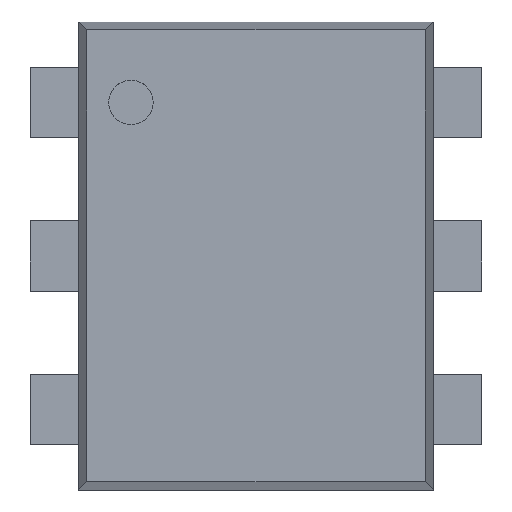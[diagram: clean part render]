
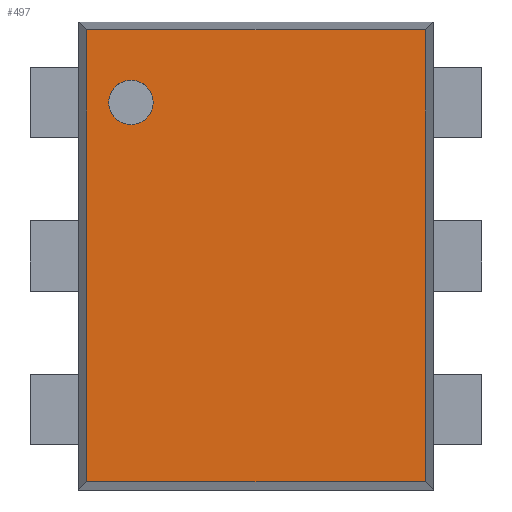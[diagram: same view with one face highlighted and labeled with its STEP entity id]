
A CAD part, top view. The second image highlights one B-rep face of the part: STEP entity #497.
In plain terms, the highlighted planar face has unit normal (0, 0, 1).
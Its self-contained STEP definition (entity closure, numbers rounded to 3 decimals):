
#145 = PLANE('',#146);
#146 = AXIS2_PLACEMENT_3D('',#147,#148,#149);
#147 = CARTESIAN_POINT('',(-1.075,-1.45,0.493));
#148 = DIRECTION('',(0.998,0.,
    -0.065));
#149 = DIRECTION('',(0.,1.,0.));
#226 = PLANE('',#227);
#227 = AXIS2_PLACEMENT_3D('',#228,#229,#230);
#228 = CARTESIAN_POINT('',(-1.1,-1.425,0.493));
#229 = DIRECTION('',(0.,0.998,
    -0.065));
#230 = DIRECTION('',(-1.,0.,0.));
#242 = VERTEX_POINT('',#243);
#243 = CARTESIAN_POINT('',(-1.05,-1.4,0.878));
#266 = VERTEX_POINT('',#267);
#267 = CARTESIAN_POINT('',(-1.05,1.4,0.878));
#281 = PLANE('',#282);
#282 = AXIS2_PLACEMENT_3D('',#283,#284,#285);
#283 = CARTESIAN_POINT('',(-1.1,1.425,0.493));
#284 = DIRECTION('',(0.,0.998,
    0.065));
#285 = DIRECTION('',(-1.,0.,0.));
#293 = EDGE_CURVE('',#242,#266,#294,.T.);
#294 = SURFACE_CURVE('',#295,(#299,#306),.PCURVE_S1.);
#295 = LINE('',#296,#297);
#296 = CARTESIAN_POINT('',(-1.05,-1.45,0.878));
#297 = VECTOR('',#298,1.);
#298 = DIRECTION('',(0.,1.,0.));
#299 = PCURVE('',#145,#300);
#300 = DEFINITIONAL_REPRESENTATION('',(#301),#305);
#301 = LINE('',#302,#303);
#302 = CARTESIAN_POINT('',(0.,0.386));
#303 = VECTOR('',#304,1.);
#304 = DIRECTION('',(1.,0.));
#305 = ( GEOMETRIC_REPRESENTATION_CONTEXT(2) 
PARAMETRIC_REPRESENTATION_CONTEXT() REPRESENTATION_CONTEXT('2D SPACE',''
  ) );
#306 = PCURVE('',#307,#312);
#307 = PLANE('',#308);
#308 = AXIS2_PLACEMENT_3D('',#309,#310,#311);
#309 = CARTESIAN_POINT('',(-1.1,-1.45,0.878));
#310 = DIRECTION('',(0.,0.,1.));
#311 = DIRECTION('',(1.,0.,0.));
#312 = DEFINITIONAL_REPRESENTATION('',(#313),#317);
#313 = LINE('',#314,#315);
#314 = CARTESIAN_POINT('',(0.05,0.));
#315 = VECTOR('',#316,1.);
#316 = DIRECTION('',(0.,1.));
#317 = ( GEOMETRIC_REPRESENTATION_CONTEXT(2) 
PARAMETRIC_REPRESENTATION_CONTEXT() REPRESENTATION_CONTEXT('2D SPACE',''
  ) );
#437 = PLANE('',#438);
#438 = AXIS2_PLACEMENT_3D('',#439,#440,#441);
#439 = CARTESIAN_POINT('',(1.075,-1.45,0.493));
#440 = DIRECTION('',(0.998,0.,
    0.065));
#441 = DIRECTION('',(0.,1.,0.));
#455 = VERTEX_POINT('',#456);
#456 = CARTESIAN_POINT('',(1.05,-1.4,0.878));
#477 = EDGE_CURVE('',#242,#455,#478,.T.);
#478 = SURFACE_CURVE('',#479,(#483,#490),.PCURVE_S1.);
#479 = LINE('',#480,#481);
#480 = CARTESIAN_POINT('',(-1.1,-1.4,0.878));
#481 = VECTOR('',#482,1.);
#482 = DIRECTION('',(1.,0.,0.));
#483 = PCURVE('',#226,#484);
#484 = DEFINITIONAL_REPRESENTATION('',(#485),#489);
#485 = LINE('',#486,#487);
#486 = CARTESIAN_POINT('',(-0.,0.386));
#487 = VECTOR('',#488,1.);
#488 = DIRECTION('',(-1.,0.));
#489 = ( GEOMETRIC_REPRESENTATION_CONTEXT(2) 
PARAMETRIC_REPRESENTATION_CONTEXT() REPRESENTATION_CONTEXT('2D SPACE',''
  ) );
#490 = PCURVE('',#307,#491);
#491 = DEFINITIONAL_REPRESENTATION('',(#492),#496);
#492 = LINE('',#493,#494);
#493 = CARTESIAN_POINT('',(0.,0.05));
#494 = VECTOR('',#495,1.);
#495 = DIRECTION('',(1.,0.));
#496 = ( GEOMETRIC_REPRESENTATION_CONTEXT(2) 
PARAMETRIC_REPRESENTATION_CONTEXT() REPRESENTATION_CONTEXT('2D SPACE',''
  ) );
#497 = ADVANCED_FACE('',(#498,#546),#307,.T.);
#498 = FACE_BOUND('',#499,.T.);
#499 = EDGE_LOOP('',(#500,#501,#502,#525));
#500 = ORIENTED_EDGE('',*,*,#293,.F.);
#501 = ORIENTED_EDGE('',*,*,#477,.T.);
#502 = ORIENTED_EDGE('',*,*,#503,.T.);
#503 = EDGE_CURVE('',#455,#504,#506,.T.);
#504 = VERTEX_POINT('',#505);
#505 = CARTESIAN_POINT('',(1.05,1.4,0.878));
#506 = SURFACE_CURVE('',#507,(#511,#518),.PCURVE_S1.);
#507 = LINE('',#508,#509);
#508 = CARTESIAN_POINT('',(1.05,-1.45,0.878));
#509 = VECTOR('',#510,1.);
#510 = DIRECTION('',(0.,1.,0.));
#511 = PCURVE('',#307,#512);
#512 = DEFINITIONAL_REPRESENTATION('',(#513),#517);
#513 = LINE('',#514,#515);
#514 = CARTESIAN_POINT('',(2.15,0.));
#515 = VECTOR('',#516,1.);
#516 = DIRECTION('',(0.,1.));
#517 = ( GEOMETRIC_REPRESENTATION_CONTEXT(2) 
PARAMETRIC_REPRESENTATION_CONTEXT() REPRESENTATION_CONTEXT('2D SPACE',''
  ) );
#518 = PCURVE('',#437,#519);
#519 = DEFINITIONAL_REPRESENTATION('',(#520),#524);
#520 = LINE('',#521,#522);
#521 = CARTESIAN_POINT('',(0.,0.386));
#522 = VECTOR('',#523,1.);
#523 = DIRECTION('',(1.,0.));
#524 = ( GEOMETRIC_REPRESENTATION_CONTEXT(2) 
PARAMETRIC_REPRESENTATION_CONTEXT() REPRESENTATION_CONTEXT('2D SPACE',''
  ) );
#525 = ORIENTED_EDGE('',*,*,#526,.F.);
#526 = EDGE_CURVE('',#266,#504,#527,.T.);
#527 = SURFACE_CURVE('',#528,(#532,#539),.PCURVE_S1.);
#528 = LINE('',#529,#530);
#529 = CARTESIAN_POINT('',(-1.1,1.4,0.878));
#530 = VECTOR('',#531,1.);
#531 = DIRECTION('',(1.,0.,0.));
#532 = PCURVE('',#307,#533);
#533 = DEFINITIONAL_REPRESENTATION('',(#534),#538);
#534 = LINE('',#535,#536);
#535 = CARTESIAN_POINT('',(0.,2.85));
#536 = VECTOR('',#537,1.);
#537 = DIRECTION('',(1.,0.));
#538 = ( GEOMETRIC_REPRESENTATION_CONTEXT(2) 
PARAMETRIC_REPRESENTATION_CONTEXT() REPRESENTATION_CONTEXT('2D SPACE',''
  ) );
#539 = PCURVE('',#281,#540);
#540 = DEFINITIONAL_REPRESENTATION('',(#541),#545);
#541 = LINE('',#542,#543);
#542 = CARTESIAN_POINT('',(-0.,0.386));
#543 = VECTOR('',#544,1.);
#544 = DIRECTION('',(-1.,0.));
#545 = ( GEOMETRIC_REPRESENTATION_CONTEXT(2) 
PARAMETRIC_REPRESENTATION_CONTEXT() REPRESENTATION_CONTEXT('2D SPACE',''
  ) );
#546 = FACE_BOUND('',#547,.T.);
#547 = EDGE_LOOP('',(#548));
#548 = ORIENTED_EDGE('',*,*,#549,.F.);
#549 = EDGE_CURVE('',#550,#550,#552,.T.);
#550 = VERTEX_POINT('',#551);
#551 = CARTESIAN_POINT('',(-0.638,0.95,0.878));
#552 = SURFACE_CURVE('',#553,(#558,#565),.PCURVE_S1.);
#553 = CIRCLE('',#554,0.138);
#554 = AXIS2_PLACEMENT_3D('',#555,#556,#557);
#555 = CARTESIAN_POINT('',(-0.775,0.95,0.878));
#556 = DIRECTION('',(0.,0.,1.));
#557 = DIRECTION('',(1.,0.,-0.));
#558 = PCURVE('',#307,#559);
#559 = DEFINITIONAL_REPRESENTATION('',(#560),#564);
#560 = CIRCLE('',#561,0.138);
#561 = AXIS2_PLACEMENT_2D('',#562,#563);
#562 = CARTESIAN_POINT('',(0.325,2.4));
#563 = DIRECTION('',(1.,0.));
#564 = ( GEOMETRIC_REPRESENTATION_CONTEXT(2) 
PARAMETRIC_REPRESENTATION_CONTEXT() REPRESENTATION_CONTEXT('2D SPACE',''
  ) );
#565 = PCURVE('',#566,#571);
#566 = CYLINDRICAL_SURFACE('',#567,0.138);
#567 = AXIS2_PLACEMENT_3D('',#568,#569,#570);
#568 = CARTESIAN_POINT('',(-0.775,0.95,0.792));
#569 = DIRECTION('',(0.,0.,1.));
#570 = DIRECTION('',(1.,0.,0.));
#571 = DEFINITIONAL_REPRESENTATION('',(#572),#576);
#572 = LINE('',#573,#574);
#573 = CARTESIAN_POINT('',(0.,0.086));
#574 = VECTOR('',#575,1.);
#575 = DIRECTION('',(1.,0.));
#576 = ( GEOMETRIC_REPRESENTATION_CONTEXT(2) 
PARAMETRIC_REPRESENTATION_CONTEXT() REPRESENTATION_CONTEXT('2D SPACE',''
  ) );
